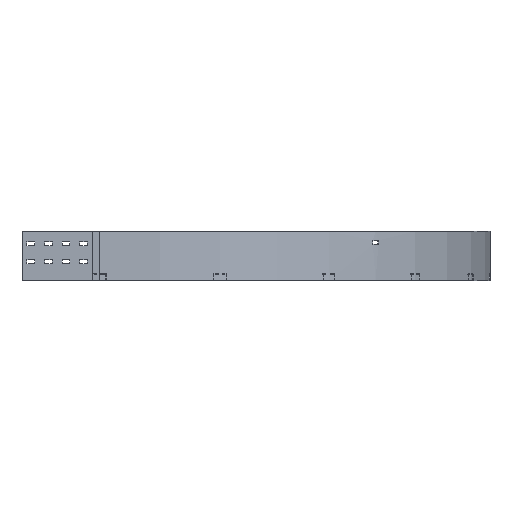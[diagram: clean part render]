
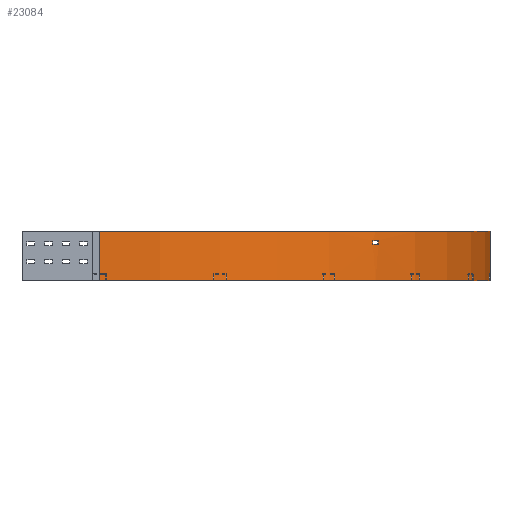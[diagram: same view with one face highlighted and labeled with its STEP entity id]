
A CAD part, front view. The second image highlights one B-rep face of the part: STEP entity #23084.
In plain terms, the highlighted cylindrical face has radius 1111 mm (diameter 2222 mm), a partial arc.
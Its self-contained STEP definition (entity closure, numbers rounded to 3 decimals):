
#575=FACE_BOUND('',#3340,.T.);
#1075=CYLINDRICAL_SURFACE('',#24287,1111.);
#1108=CIRCLE('',#24279,1111.);
#1113=CIRCLE('',#24286,1111.);
#1114=CIRCLE('',#24288,1111.);
#1115=CIRCLE('',#24289,1111.);
#2162=FACE_OUTER_BOUND('',#3339,.T.);
#3339=EDGE_LOOP('',(#15596,#15597,#15598,#15599));
#3340=EDGE_LOOP('',(#15600,#15601,#15602,#15603));
#5015=LINE('',#31945,#7411);
#5021=LINE('',#31969,#7417);
#5022=LINE('',#31974,#7418);
#5023=LINE('',#31977,#7419);
#7411=VECTOR('',#26062,304.8);
#7417=VECTOR('',#26088,304.8);
#7418=VECTOR('',#26091,304.8);
#7419=VECTOR('',#26094,304.8);
#9804=VERTEX_POINT('',#31938);
#9807=VERTEX_POINT('',#31943);
#9808=VERTEX_POINT('',#31947);
#9815=VERTEX_POINT('',#31965);
#9816=VERTEX_POINT('',#31970);
#9817=VERTEX_POINT('',#31971);
#9818=VERTEX_POINT('',#31973);
#9819=VERTEX_POINT('',#31975);
#12111=EDGE_CURVE('',#9807,#9804,#5015,.T.);
#12112=EDGE_CURVE('',#9804,#9808,#1108,.T.);
#12122=EDGE_CURVE('',#9815,#9807,#1113,.T.);
#12123=EDGE_CURVE('',#9808,#9815,#5021,.T.);
#12124=EDGE_CURVE('',#9816,#9817,#1114,.T.);
#12125=EDGE_CURVE('',#9817,#9818,#5022,.T.);
#12126=EDGE_CURVE('',#9818,#9819,#1115,.T.);
#12127=EDGE_CURVE('',#9819,#9816,#5023,.T.);
#15596=ORIENTED_EDGE('',*,*,#12111,.F.);
#15597=ORIENTED_EDGE('',*,*,#12122,.F.);
#15598=ORIENTED_EDGE('',*,*,#12123,.F.);
#15599=ORIENTED_EDGE('',*,*,#12112,.F.);
#15600=ORIENTED_EDGE('',*,*,#12124,.T.);
#15601=ORIENTED_EDGE('',*,*,#12125,.T.);
#15602=ORIENTED_EDGE('',*,*,#12126,.T.);
#15603=ORIENTED_EDGE('',*,*,#12127,.T.);
#23084=ADVANCED_FACE('',(#2162,#575),#1075,.T.);
#24279=AXIS2_PLACEMENT_3D('',#31948,#26065,#26066);
#24286=AXIS2_PLACEMENT_3D('',#31967,#26084,#26085);
#24287=AXIS2_PLACEMENT_3D('',#31968,#26086,#26087);
#24288=AXIS2_PLACEMENT_3D('',#31972,#26089,#26090);
#24289=AXIS2_PLACEMENT_3D('',#31976,#26092,#26093);
#26062=DIRECTION('',(0.,0.,1.));
#26065=DIRECTION('center_axis',(0.,0.,1.));
#26066=DIRECTION('ref_axis',(0.,-1.,0.));
#26084=DIRECTION('center_axis',(0.,0.,-1.));
#26085=DIRECTION('ref_axis',(0.,-1.,0.));
#26086=DIRECTION('center_axis',(0.,0.,1.));
#26087=DIRECTION('ref_axis',(0.,-1.,0.));
#26088=DIRECTION('',(0.,0.,-1.));
#26089=DIRECTION('center_axis',(0.,0.,1.));
#26090=DIRECTION('ref_axis',(0.,-1.,0.));
#26091=DIRECTION('',(0.,0.,-1.));
#26092=DIRECTION('center_axis',(0.,0.,-1.));
#26093=DIRECTION('ref_axis',(0.,-1.,0.));
#26094=DIRECTION('',(0.,0.,1.));
#31938=CARTESIAN_POINT('',(-705.5,-405.5,71.));
#31943=CARTESIAN_POINT('',(-705.5,-405.5,-71.));
#31945=CARTESIAN_POINT('',(-705.5,-405.5,-71.));
#31947=CARTESIAN_POINT('',(405.5,705.5,71.));
#31948=CARTESIAN_POINT('Origin',(-705.5,705.5,71.));
#31965=CARTESIAN_POINT('',(405.5,705.5,-71.));
#31967=CARTESIAN_POINT('Origin',(-705.5,705.5,-71.));
#31968=CARTESIAN_POINT('Origin',(-705.5,705.5,0.));
#31969=CARTESIAN_POINT('',(405.5,705.5,71.));
#31970=CARTESIAN_POINT('',(72.386,-87.73,44.));
#31971=CARTESIAN_POINT('',(87.94,-72.172,44.));
#31972=CARTESIAN_POINT('Origin',(-705.5,705.5,44.));
#31973=CARTESIAN_POINT('',(87.94,-72.172,33.));
#31974=CARTESIAN_POINT('',(87.94,-72.172,44.));
#31975=CARTESIAN_POINT('',(72.386,-87.73,33.));
#31976=CARTESIAN_POINT('Origin',(-705.5,705.5,33.));
#31977=CARTESIAN_POINT('',(72.386,-87.73,33.));
